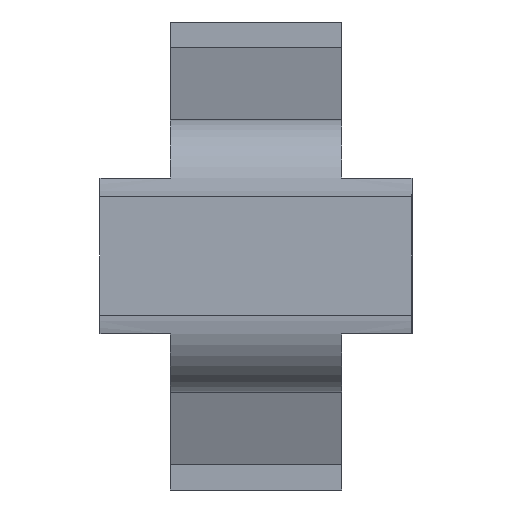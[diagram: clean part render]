
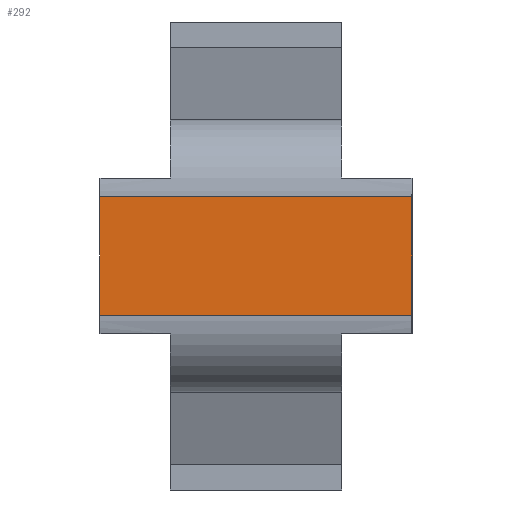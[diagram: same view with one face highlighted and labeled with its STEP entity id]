
A CAD part, left-side view. The second image highlights one B-rep face of the part: STEP entity #292.
In plain terms, the highlighted planar face has unit normal (-1, 0, 0).
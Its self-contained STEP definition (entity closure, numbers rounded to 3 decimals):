
#9 = CARTESIAN_POINT ( 'NONE',  ( -66., -5.5, -3.784 ) ) ;
#53 = CARTESIAN_POINT ( 'NONE',  ( -66., -10., -5. ) ) ;
#110 = CARTESIAN_POINT ( 'NONE',  ( -66., -5.5, 5.502 ) ) ;
#112 = EDGE_CURVE ( 'NONE', #326, #871, #730, .T. ) ;
#123 = EDGE_LOOP ( 'NONE', ( #958, #534, #659, #663 ) ) ;
#181 = LINE ( 'NONE', #53, #1048 ) ;
#231 = DIRECTION ( 'NONE',  ( 0., 0., 1. ) ) ;
#234 = PLANE ( 'NONE',  #714 ) ;
#238 = CARTESIAN_POINT ( 'NONE',  ( -66., -10., 3.784 ) ) ;
#250 = EDGE_CURVE ( 'NONE', #871, #738, #723, .T. ) ;
#292 = ADVANCED_FACE ( 'NONE', ( #889 ), #234, .T. ) ;
#303 = VECTOR ( 'NONE', #909, 1000. ) ;
#326 = VERTEX_POINT ( 'NONE', #427 ) ;
#350 = VECTOR ( 'NONE', #643, 1000. ) ;
#353 = DIRECTION ( 'NONE',  ( -1., 0., 0. ) ) ;
#427 = CARTESIAN_POINT ( 'NONE',  ( -66., 10., 3.784 ) ) ;
#463 = VERTEX_POINT ( 'NONE', #238 ) ;
#512 = CARTESIAN_POINT ( 'NONE',  ( -66., -10., -3.784 ) ) ;
#534 = ORIENTED_EDGE ( 'NONE', *, *, #250, .T. ) ;
#643 = DIRECTION ( 'NONE',  ( 0., 1., 0. ) ) ;
#659 = ORIENTED_EDGE ( 'NONE', *, *, #1062, .T. ) ;
#663 = ORIENTED_EDGE ( 'NONE', *, *, #1073, .T. ) ;
#699 = VECTOR ( 'NONE', #842, 1000. ) ;
#714 = AXIS2_PLACEMENT_3D ( 'NONE', #110, #353, #776 ) ;
#723 = LINE ( 'NONE', #9, #699 ) ;
#730 = LINE ( 'NONE', #1089, #303 ) ;
#736 = CARTESIAN_POINT ( 'NONE',  ( -66., -5.5, 3.784 ) ) ;
#738 = VERTEX_POINT ( 'NONE', #512 ) ;
#776 = DIRECTION ( 'NONE',  ( 0., 0., 1. ) ) ;
#787 = CARTESIAN_POINT ( 'NONE',  ( -66., 10., -3.784 ) ) ;
#842 = DIRECTION ( 'NONE',  ( 0., -1., 0. ) ) ;
#871 = VERTEX_POINT ( 'NONE', #787 ) ;
#889 = FACE_OUTER_BOUND ( 'NONE', #123, .T. ) ;
#909 = DIRECTION ( 'NONE',  ( 0., 0., -1. ) ) ;
#958 = ORIENTED_EDGE ( 'NONE', *, *, #112, .T. ) ;
#1019 = LINE ( 'NONE', #736, #350 ) ;
#1048 = VECTOR ( 'NONE', #231, 1000. ) ;
#1062 = EDGE_CURVE ( 'NONE', #738, #463, #181, .T. ) ;
#1073 = EDGE_CURVE ( 'NONE', #463, #326, #1019, .T. ) ;
#1089 = CARTESIAN_POINT ( 'NONE',  ( -66., 10., -5. ) ) ;
